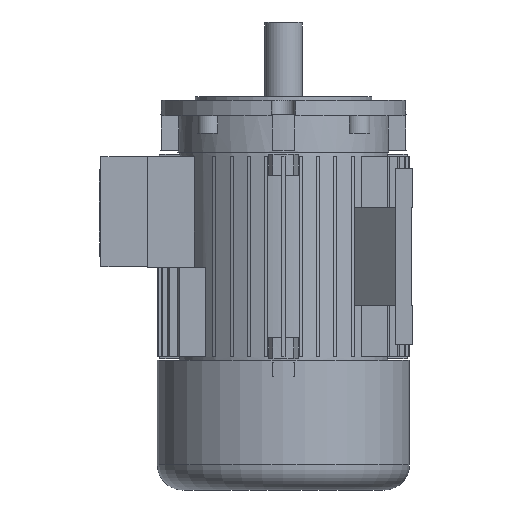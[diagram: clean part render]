
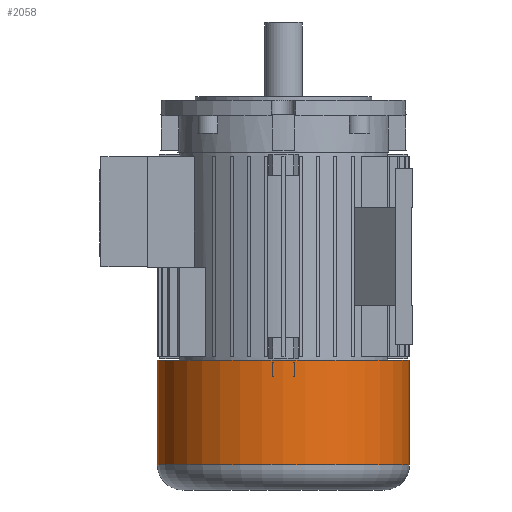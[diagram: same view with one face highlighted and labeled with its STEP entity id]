
A CAD part, left-side view. The second image highlights one B-rep face of the part: STEP entity #2058.
In plain terms, the highlighted cylindrical face has radius 128.5 mm (diameter 257 mm), a full revolution.
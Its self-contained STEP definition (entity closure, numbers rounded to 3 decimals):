
#459 = CIRCLE ( 'NONE', #13766, 128.5 ) ;
#2058 = ADVANCED_FACE ( 'NONE', ( #12433, #6533 ), #14473, .T. ) ;
#2065 = DIRECTION ( 'NONE',  ( 0., 0., 1. ) ) ;
#2190 = DIRECTION ( 'NONE',  ( 1., 0., 0. ) ) ;
#2960 = ORIENTED_EDGE ( 'NONE', *, *, #5488, .F. ) ;
#3098 = CARTESIAN_POINT ( 'NONE',  ( 128.5, 0., -87. ) ) ;
#3255 = AXIS2_PLACEMENT_3D ( 'NONE', #7903, #2065, #11295 ) ;
#4495 = DIRECTION ( 'NONE',  ( 0., 0., 1. ) ) ;
#5488 = EDGE_CURVE ( 'NONE', #13459, #13459, #459, .T. ) ;
#6533 = FACE_OUTER_BOUND ( 'NONE', #8836, .T. ) ;
#6889 = CARTESIAN_POINT ( 'NONE',  ( 0., 0., -193.3 ) ) ;
#7903 = CARTESIAN_POINT ( 'NONE',  ( 0., 0., -77.868 ) ) ;
#8836 = EDGE_LOOP ( 'NONE', ( #2960 ) ) ;
#9541 = EDGE_CURVE ( 'NONE', #9973, #9973, #10698, .T. ) ;
#9973 = VERTEX_POINT ( 'NONE', #12393 ) ;
#10698 = CIRCLE ( 'NONE', #12404, 128.5 ) ;
#10976 = EDGE_LOOP ( 'NONE', ( #13060 ) ) ;
#11295 = DIRECTION ( 'NONE',  ( 1., 0., 0. ) ) ;
#12393 = CARTESIAN_POINT ( 'NONE',  ( 128.5, 0., -193.3 ) ) ;
#12404 = AXIS2_PLACEMENT_3D ( 'NONE', #6889, #14904, #2190 ) ;
#12433 = FACE_OUTER_BOUND ( 'NONE', #10976, .T. ) ;
#12514 = DIRECTION ( 'NONE',  ( 1., 0., 0. ) ) ;
#12725 = CARTESIAN_POINT ( 'NONE',  ( 0., 0., -87. ) ) ;
#13060 = ORIENTED_EDGE ( 'NONE', *, *, #9541, .T. ) ;
#13459 = VERTEX_POINT ( 'NONE', #3098 ) ;
#13766 = AXIS2_PLACEMENT_3D ( 'NONE', #12725, #4495, #12514 ) ;
#14473 = CYLINDRICAL_SURFACE ( 'NONE', #3255, 128.5 ) ;
#14904 = DIRECTION ( 'NONE',  ( 0., 0., 1. ) ) ;
